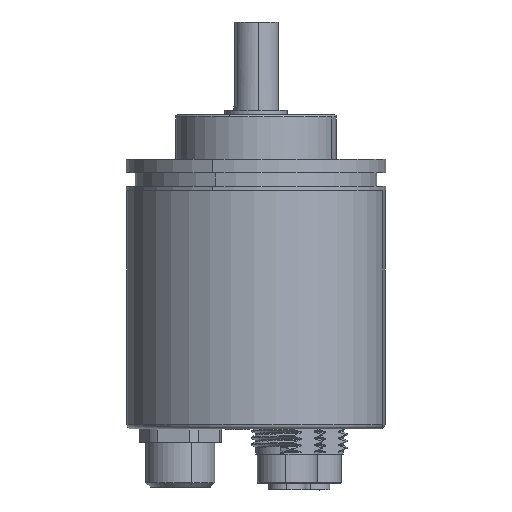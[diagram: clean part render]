
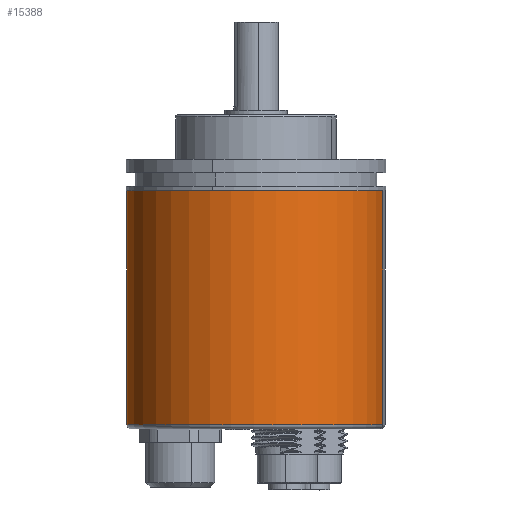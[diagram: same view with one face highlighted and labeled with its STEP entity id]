
A CAD part, front view. The second image highlights one B-rep face of the part: STEP entity #15388.
In plain terms, the highlighted cylindrical face has radius 28.875 mm (diameter 57.75 mm), a partial arc.
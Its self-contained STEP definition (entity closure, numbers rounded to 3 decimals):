
#1407 = DIRECTION ( 'NONE',  ( 0., 0., 1. ) ) ;
#3680 = CARTESIAN_POINT ( 'NONE',  ( -28.875, -18., -18.377 ) ) ;
#3941 = CARTESIAN_POINT ( 'NONE',  ( -0.535, -23.535, -6.997 ) ) ;
#5010 = VERTEX_POINT ( 'NONE', #35257 ) ;
#5548 = AXIS2_PLACEMENT_3D ( 'NONE', #27178, #52441, #5866 ) ;
#5866 = DIRECTION ( 'NONE',  ( 0.981, -0.192, 0. ) ) ;
#7838 = ORIENTED_EDGE ( 'NONE', *, *, #9167, .F. ) ;
#9167 = EDGE_CURVE ( 'NONE', #16996, #25679, #24009, .T. ) ;
#12126 = FACE_OUTER_BOUND ( 'NONE', #45578, .T. ) ;
#14150 = AXIS2_PLACEMENT_3D ( 'NONE', #23268, #1407, #48539 ) ;
#15388 = ADVANCED_FACE ( 'NONE', ( #12126 ), #33188, .T. ) ;
#15455 = DIRECTION ( 'NONE',  ( 0., 0., -1. ) ) ;
#16996 = VERTEX_POINT ( 'NONE', #54900 ) ;
#18449 = EDGE_CURVE ( 'NONE', #25679, #5010, #21027, .T. ) ;
#21027 = LINE ( 'NONE', #38702, #54761 ) ;
#23268 = CARTESIAN_POINT ( 'NONE',  ( -28.875, -18., -6.997 ) ) ;
#24009 = CIRCLE ( 'NONE', #14150, 28.875 ) ;
#25622 = EDGE_CURVE ( 'NONE', #16996, #44728, #36793, .T. ) ;
#25679 = VERTEX_POINT ( 'NONE', #3941 ) ;
#27178 = CARTESIAN_POINT ( 'NONE',  ( -28.875, -18., -59.297 ) ) ;
#29593 = VECTOR ( 'NONE', #15455, 1000. ) ;
#29628 = EDGE_CURVE ( 'NONE', #44728, #5010, #39596, .T. ) ;
#32229 = ORIENTED_EDGE ( 'NONE', *, *, #18449, .F. ) ;
#32906 = DIRECTION ( 'NONE',  ( 0., 0., -1. ) ) ;
#33188 = CYLINDRICAL_SURFACE ( 'NONE', #34686, 28.875 ) ;
#34686 = AXIS2_PLACEMENT_3D ( 'NONE', #3680, #32906, #41853 ) ;
#35257 = CARTESIAN_POINT ( 'NONE',  ( -0.535, -23.535, -59.297 ) ) ;
#36793 = LINE ( 'NONE', #53921, #29593 ) ;
#38702 = CARTESIAN_POINT ( 'NONE',  ( -0.535, -23.535, -18.377 ) ) ;
#39596 = CIRCLE ( 'NONE', #5548, 28.875 ) ;
#41853 = DIRECTION ( 'NONE',  ( -0.981, 0.192, 0. ) ) ;
#44728 = VERTEX_POINT ( 'NONE', #50620 ) ;
#45115 = ORIENTED_EDGE ( 'NONE', *, *, #25622, .T. ) ;
#45578 = EDGE_LOOP ( 'NONE', ( #32229, #7838, #45115, #52656 ) ) ;
#46299 = DIRECTION ( 'NONE',  ( 0., 0., -1. ) ) ;
#48539 = DIRECTION ( 'NONE',  ( 0.981, -0.192, 0. ) ) ;
#50620 = CARTESIAN_POINT ( 'NONE',  ( -57.215, -12.465, -59.297 ) ) ;
#52441 = DIRECTION ( 'NONE',  ( 0., 0., 1. ) ) ;
#52656 = ORIENTED_EDGE ( 'NONE', *, *, #29628, .T. ) ;
#53921 = CARTESIAN_POINT ( 'NONE',  ( -57.215, -12.465, -18.377 ) ) ;
#54761 = VECTOR ( 'NONE', #46299, 1000. ) ;
#54900 = CARTESIAN_POINT ( 'NONE',  ( -57.215, -12.465, -6.997 ) ) ;
